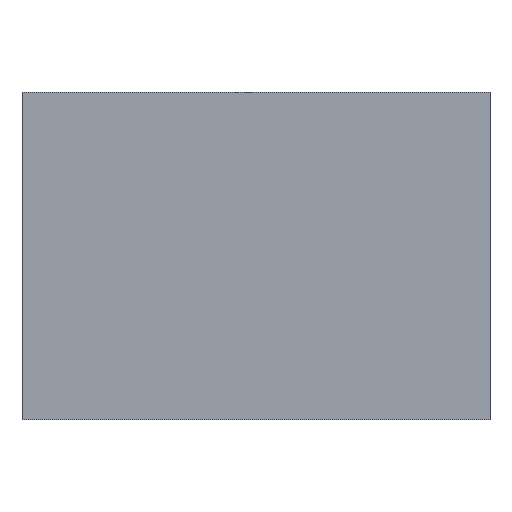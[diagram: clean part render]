
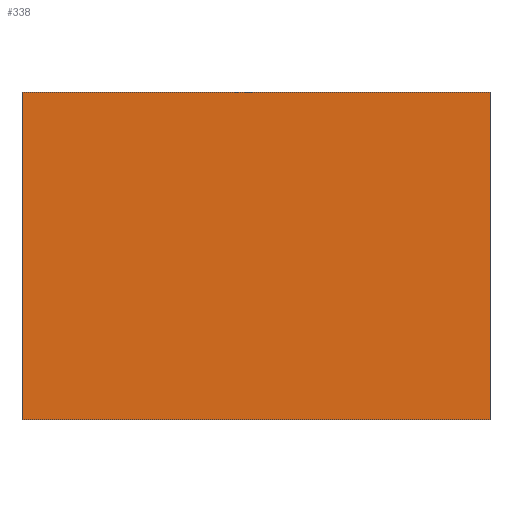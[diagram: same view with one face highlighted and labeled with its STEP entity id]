
A CAD part, top view. The second image highlights one B-rep face of the part: STEP entity #338.
In plain terms, the highlighted planar face has unit normal (0, 0, 1).
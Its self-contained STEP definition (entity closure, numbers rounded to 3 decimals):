
#24 = VERTEX_POINT('',#25);
#25 = CARTESIAN_POINT('',(20.,-14.,-0.15));
#32 = PLANE('',#33);
#33 = AXIS2_PLACEMENT_3D('',#34,#35,#36);
#34 = CARTESIAN_POINT('',(20.,-14.,-2.));
#35 = DIRECTION('',(-1.,-0.,0.));
#36 = DIRECTION('',(0.,0.,-1.));
#44 = PLANE('',#45);
#45 = AXIS2_PLACEMENT_3D('',#46,#47,#48);
#46 = CARTESIAN_POINT('',(20.,-14.,-2.));
#47 = DIRECTION('',(-0.,1.,0.));
#48 = DIRECTION('',(0.,0.,-1.));
#85 = VERTEX_POINT('',#86);
#86 = CARTESIAN_POINT('',(20.,14.,-0.15));
#100 = PLANE('',#101);
#101 = AXIS2_PLACEMENT_3D('',#102,#103,#104);
#102 = CARTESIAN_POINT('',(20.,14.,-2.));
#103 = DIRECTION('',(-0.,1.,0.));
#104 = DIRECTION('',(0.,0.,-1.));
#112 = EDGE_CURVE('',#24,#85,#113,.T.);
#113 = SURFACE_CURVE('',#114,(#118,#125),.PCURVE_S1.);
#114 = LINE('',#115,#116);
#115 = CARTESIAN_POINT('',(20.,-14.,-0.15));
#116 = VECTOR('',#117,1.);
#117 = DIRECTION('',(-0.,1.,0.));
#118 = PCURVE('',#32,#119);
#119 = DEFINITIONAL_REPRESENTATION('',(#120),#124);
#120 = LINE('',#121,#122);
#121 = CARTESIAN_POINT('',(-1.85,-0.));
#122 = VECTOR('',#123,1.);
#123 = DIRECTION('',(-0.,-1.));
#124 = ( GEOMETRIC_REPRESENTATION_CONTEXT(2) 
PARAMETRIC_REPRESENTATION_CONTEXT() REPRESENTATION_CONTEXT('2D SPACE',''
  ) );
#125 = PCURVE('',#126,#131);
#126 = PLANE('',#127);
#127 = AXIS2_PLACEMENT_3D('',#128,#129,#130);
#128 = CARTESIAN_POINT('',(20.,-14.,-0.15));
#129 = DIRECTION('',(0.,0.,1.));
#130 = DIRECTION('',(1.,0.,0.));
#131 = DEFINITIONAL_REPRESENTATION('',(#132),#136);
#132 = LINE('',#133,#134);
#133 = CARTESIAN_POINT('',(0.,-0.));
#134 = VECTOR('',#135,1.);
#135 = DIRECTION('',(-0.,1.));
#136 = ( GEOMETRIC_REPRESENTATION_CONTEXT(2) 
PARAMETRIC_REPRESENTATION_CONTEXT() REPRESENTATION_CONTEXT('2D SPACE',''
  ) );
#144 = VERTEX_POINT('',#145);
#145 = CARTESIAN_POINT('',(-20.,-14.,-0.15));
#152 = PLANE('',#153);
#153 = AXIS2_PLACEMENT_3D('',#154,#155,#156);
#154 = CARTESIAN_POINT('',(-20.,-14.,-2.));
#155 = DIRECTION('',(-1.,-0.,0.));
#156 = DIRECTION('',(0.,0.,-1.));
#195 = VERTEX_POINT('',#196);
#196 = CARTESIAN_POINT('',(-20.,14.,-0.15));
#217 = EDGE_CURVE('',#144,#195,#218,.T.);
#218 = SURFACE_CURVE('',#219,(#223,#230),.PCURVE_S1.);
#219 = LINE('',#220,#221);
#220 = CARTESIAN_POINT('',(-20.,-14.,-0.15));
#221 = VECTOR('',#222,1.);
#222 = DIRECTION('',(-0.,1.,0.));
#223 = PCURVE('',#152,#224);
#224 = DEFINITIONAL_REPRESENTATION('',(#225),#229);
#225 = LINE('',#226,#227);
#226 = CARTESIAN_POINT('',(-1.85,-0.));
#227 = VECTOR('',#228,1.);
#228 = DIRECTION('',(-0.,-1.));
#229 = ( GEOMETRIC_REPRESENTATION_CONTEXT(2) 
PARAMETRIC_REPRESENTATION_CONTEXT() REPRESENTATION_CONTEXT('2D SPACE',''
  ) );
#230 = PCURVE('',#126,#231);
#231 = DEFINITIONAL_REPRESENTATION('',(#232),#236);
#232 = LINE('',#233,#234);
#233 = CARTESIAN_POINT('',(-40.,0.));
#234 = VECTOR('',#235,1.);
#235 = DIRECTION('',(-0.,1.));
#236 = ( GEOMETRIC_REPRESENTATION_CONTEXT(2) 
PARAMETRIC_REPRESENTATION_CONTEXT() REPRESENTATION_CONTEXT('2D SPACE',''
  ) );
#263 = EDGE_CURVE('',#24,#144,#264,.T.);
#264 = SURFACE_CURVE('',#265,(#269,#276),.PCURVE_S1.);
#265 = LINE('',#266,#267);
#266 = CARTESIAN_POINT('',(20.,-14.,-0.15));
#267 = VECTOR('',#268,1.);
#268 = DIRECTION('',(-1.,-0.,0.));
#269 = PCURVE('',#44,#270);
#270 = DEFINITIONAL_REPRESENTATION('',(#271),#275);
#271 = LINE('',#272,#273);
#272 = CARTESIAN_POINT('',(-1.85,-0.));
#273 = VECTOR('',#274,1.);
#274 = DIRECTION('',(-0.,1.));
#275 = ( GEOMETRIC_REPRESENTATION_CONTEXT(2) 
PARAMETRIC_REPRESENTATION_CONTEXT() REPRESENTATION_CONTEXT('2D SPACE',''
  ) );
#276 = PCURVE('',#126,#277);
#277 = DEFINITIONAL_REPRESENTATION('',(#278),#282);
#278 = LINE('',#279,#280);
#279 = CARTESIAN_POINT('',(0.,-0.));
#280 = VECTOR('',#281,1.);
#281 = DIRECTION('',(-1.,0.));
#282 = ( GEOMETRIC_REPRESENTATION_CONTEXT(2) 
PARAMETRIC_REPRESENTATION_CONTEXT() REPRESENTATION_CONTEXT('2D SPACE',''
  ) );
#310 = EDGE_CURVE('',#85,#195,#311,.T.);
#311 = SURFACE_CURVE('',#312,(#316,#323),.PCURVE_S1.);
#312 = LINE('',#313,#314);
#313 = CARTESIAN_POINT('',(20.,14.,-0.15));
#314 = VECTOR('',#315,1.);
#315 = DIRECTION('',(-1.,-0.,0.));
#316 = PCURVE('',#100,#317);
#317 = DEFINITIONAL_REPRESENTATION('',(#318),#322);
#318 = LINE('',#319,#320);
#319 = CARTESIAN_POINT('',(-1.85,-0.));
#320 = VECTOR('',#321,1.);
#321 = DIRECTION('',(-0.,1.));
#322 = ( GEOMETRIC_REPRESENTATION_CONTEXT(2) 
PARAMETRIC_REPRESENTATION_CONTEXT() REPRESENTATION_CONTEXT('2D SPACE',''
  ) );
#323 = PCURVE('',#126,#324);
#324 = DEFINITIONAL_REPRESENTATION('',(#325),#329);
#325 = LINE('',#326,#327);
#326 = CARTESIAN_POINT('',(0.,28.));
#327 = VECTOR('',#328,1.);
#328 = DIRECTION('',(-1.,0.));
#329 = ( GEOMETRIC_REPRESENTATION_CONTEXT(2) 
PARAMETRIC_REPRESENTATION_CONTEXT() REPRESENTATION_CONTEXT('2D SPACE',''
  ) );
#338 = ADVANCED_FACE('',(#339),#126,.T.);
#339 = FACE_BOUND('',#340,.F.);
#340 = EDGE_LOOP('',(#341,#342,#343,#344));
#341 = ORIENTED_EDGE('',*,*,#112,.F.);
#342 = ORIENTED_EDGE('',*,*,#263,.T.);
#343 = ORIENTED_EDGE('',*,*,#217,.T.);
#344 = ORIENTED_EDGE('',*,*,#310,.F.);
